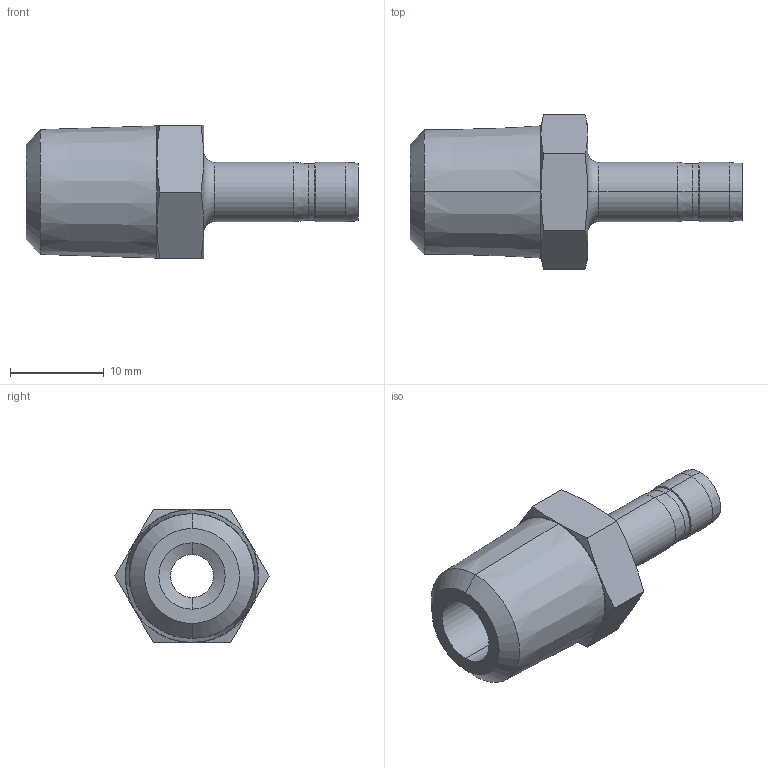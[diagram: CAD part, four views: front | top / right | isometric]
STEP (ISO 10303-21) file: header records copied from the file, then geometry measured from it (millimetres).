
FILE_DESCRIPTION (( 'STEP AP203' ), '1' );
FILE_NAME ('DHA04-04 SS.STEP', '2009-09-08T06:14:37', ( ' ' ), ( '' ), 'SwSTEP 2.0', 'SolidWorks 2008', '' );
FILE_SCHEMA (( 'CONFIG_CONTROL_DESIGN' ));
Length unit declared in the file: millimetre
Products named in the file (1): DHA04-04 SS
Bounding box: 35.5 x 16.5 x 14.29 mm (x, y, z)
Volume: 2481 mm3; surface area: 2047.1 mm2
Topology: 1 solids, 1 shells, 46 faces, 96 edges, 54 vertices
Faces by surface type: cone 24, cylinder 10, plane 10, torus 2
Entity records: 1317 total; most frequent: CARTESIAN_POINT 277, DIRECTION 210, ORIENTED_EDGE 192, EDGE_CURVE 96, AXIS2_PLACEMENT_3D 91, VERTEX_POINT 54, EDGE_LOOP 50, FACE_OUTER_BOUND 46
